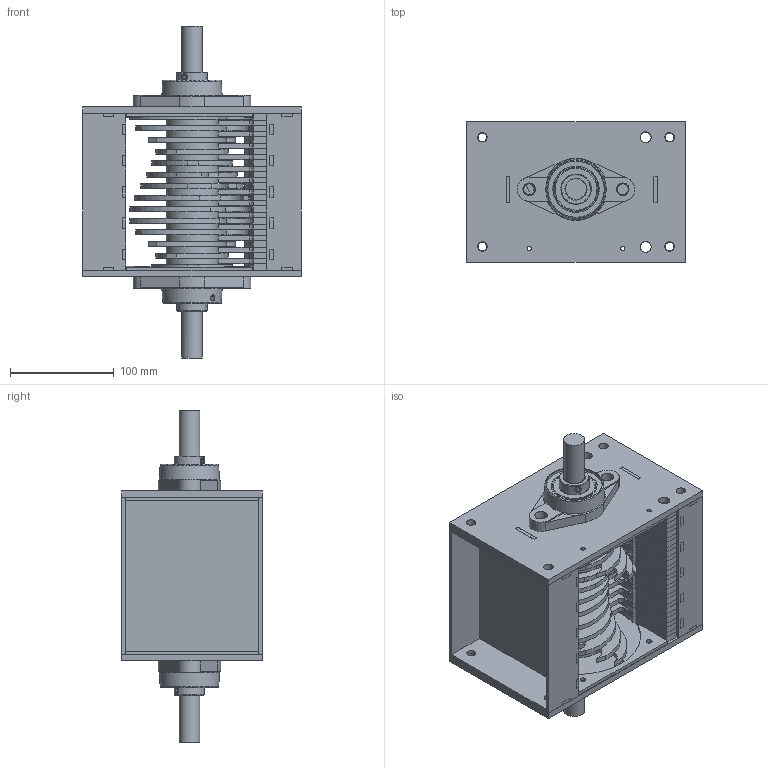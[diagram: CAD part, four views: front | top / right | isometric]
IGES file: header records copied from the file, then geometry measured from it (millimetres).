
Global section: file name: ShredderImperial; native system: Autodesk Inventor 2018; preprocessor: unknown; author: Olivier; date: 20180205.011920; units: inch
Bounding box: 210 x 135 x 319.25 mm (x, y, z)
Volume: 1650051.9 mm3; surface area: 793803.8 mm2
Topology: 75 solids, 79 shells, 1366 faces, 3574 edges, 2404 vertices
Faces by surface type: bspline 1366
